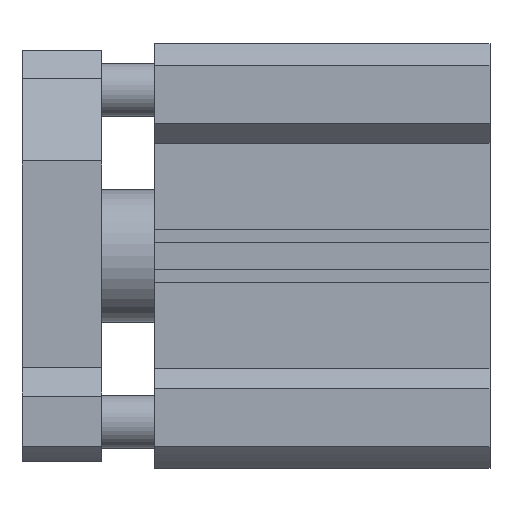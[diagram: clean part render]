
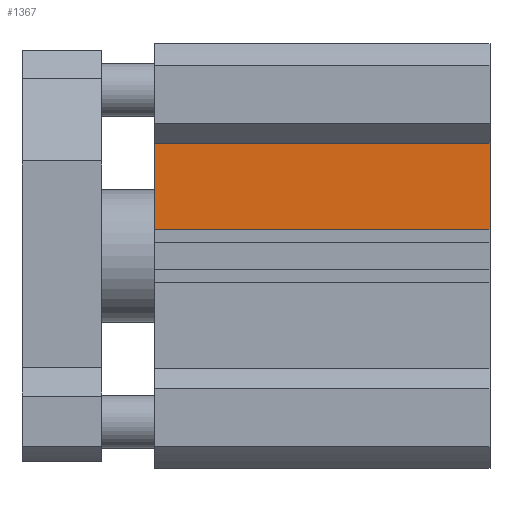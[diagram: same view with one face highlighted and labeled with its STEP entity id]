
A CAD part, front view. The second image highlights one B-rep face of the part: STEP entity #1367.
In plain terms, the highlighted planar face has unit normal (0, -1, 0).
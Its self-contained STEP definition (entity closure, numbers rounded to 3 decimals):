
#11 = LINE ( 'NONE', #4688, #3750 ) ;
#334 = VECTOR ( 'NONE', #2177, 1000. ) ;
#590 = ORIENTED_EDGE ( 'NONE', *, *, #4295, .T. ) ;
#944 = LINE ( 'NONE', #1691, #2280 ) ;
#953 = EDGE_LOOP ( 'NONE', ( #590, #4230, #3507, #2975 ) ) ;
#963 = VECTOR ( 'NONE', #4863, 1000. ) ;
#1123 = EDGE_CURVE ( 'NONE', #3861, #1699, #1796, .T. ) ;
#1151 = FACE_OUTER_BOUND ( 'NONE', #953, .T. ) ;
#1255 = CARTESIAN_POINT ( 'NONE',  ( 50.5, -29., 17. ) ) ;
#1367 = ADVANCED_FACE ( 'NONE', ( #1151 ), #2402, .F. ) ;
#1547 = DIRECTION ( 'NONE',  ( 0., 0., -1. ) ) ;
#1691 = CARTESIAN_POINT ( 'NONE',  ( 50.5, -29., 17. ) ) ;
#1699 = VERTEX_POINT ( 'NONE', #4620 ) ;
#1796 = LINE ( 'NONE', #3374, #334 ) ;
#2177 = DIRECTION ( 'NONE',  ( 0., 0., -1. ) ) ;
#2178 = LINE ( 'NONE', #4896, #963 ) ;
#2280 = VECTOR ( 'NONE', #3266, 1000. ) ;
#2370 = CARTESIAN_POINT ( 'NONE',  ( 0., -29., 4. ) ) ;
#2402 = PLANE ( 'NONE',  #3661 ) ;
#2489 = EDGE_CURVE ( 'NONE', #1699, #3779, #2178, .T. ) ;
#2753 = DIRECTION ( 'NONE',  ( 0., 1., 0. ) ) ;
#2975 = ORIENTED_EDGE ( 'NONE', *, *, #3082, .T. ) ;
#3082 = EDGE_CURVE ( 'NONE', #3861, #4131, #944, .T. ) ;
#3266 = DIRECTION ( 'NONE',  ( -1., 0., 0. ) ) ;
#3374 = CARTESIAN_POINT ( 'NONE',  ( 50.5, -29., 17. ) ) ;
#3479 = CARTESIAN_POINT ( 'NONE',  ( 50.5, -29., 17. ) ) ;
#3507 = ORIENTED_EDGE ( 'NONE', *, *, #1123, .F. ) ;
#3661 = AXIS2_PLACEMENT_3D ( 'NONE', #1255, #2753, #3944 ) ;
#3750 = VECTOR ( 'NONE', #1547, 1000. ) ;
#3779 = VERTEX_POINT ( 'NONE', #2370 ) ;
#3861 = VERTEX_POINT ( 'NONE', #3479 ) ;
#3944 = DIRECTION ( 'NONE',  ( 1., 0., 0. ) ) ;
#4131 = VERTEX_POINT ( 'NONE', #4947 ) ;
#4230 = ORIENTED_EDGE ( 'NONE', *, *, #2489, .F. ) ;
#4295 = EDGE_CURVE ( 'NONE', #4131, #3779, #11, .T. ) ;
#4620 = CARTESIAN_POINT ( 'NONE',  ( 50.5, -29., 4. ) ) ;
#4688 = CARTESIAN_POINT ( 'NONE',  ( 0., -29., 17. ) ) ;
#4863 = DIRECTION ( 'NONE',  ( -1., 0., 0. ) ) ;
#4896 = CARTESIAN_POINT ( 'NONE',  ( 50.5, -29., 4. ) ) ;
#4947 = CARTESIAN_POINT ( 'NONE',  ( 0., -29., 17. ) ) ;
